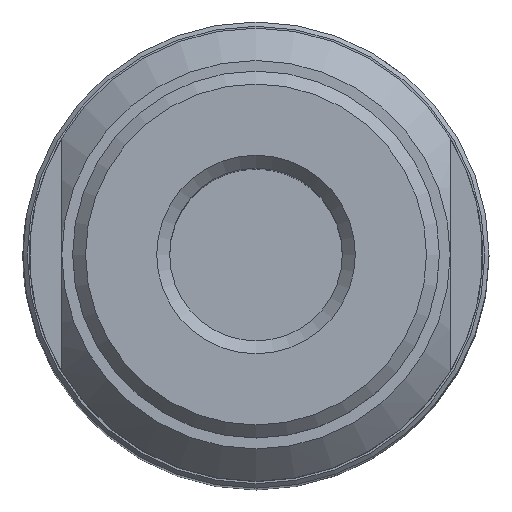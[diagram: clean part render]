
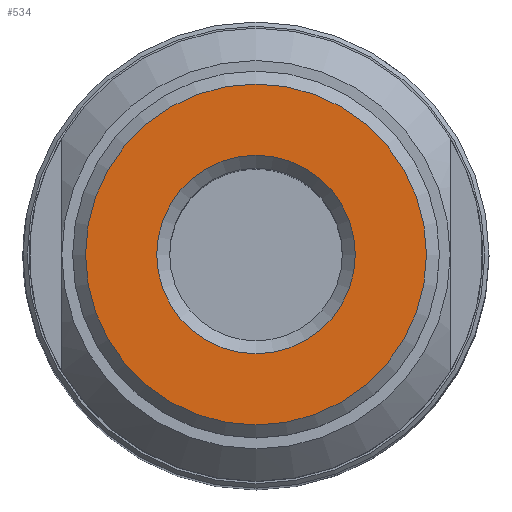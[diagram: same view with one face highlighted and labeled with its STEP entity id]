
A CAD part, top view. The second image highlights one B-rep face of the part: STEP entity #534.
In plain terms, the highlighted planar face has unit normal (0, 0, 1).
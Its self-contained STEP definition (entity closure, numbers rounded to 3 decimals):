
#78=FACE_BOUND('',#185,.T.);
#129=FACE_OUTER_BOUND('',#184,.T.);
#184=EDGE_LOOP('',(#430));
#185=EDGE_LOOP('',(#431));
#242=CIRCLE('',#603,3.95);
#243=CIRCLE('',#605,2.3);
#284=VERTEX_POINT('',#908);
#285=VERTEX_POINT('',#911);
#339=EDGE_CURVE('',#284,#284,#242,.T.);
#340=EDGE_CURVE('',#285,#285,#243,.T.);
#430=ORIENTED_EDGE('',*,*,#339,.T.);
#431=ORIENTED_EDGE('',*,*,#340,.F.);
#500=PLANE('',#604);
#534=ADVANCED_FACE('',(#129,#78),#500,.T.);
#603=AXIS2_PLACEMENT_3D('',#909,#738,#739);
#604=AXIS2_PLACEMENT_3D('',#910,#740,#741);
#605=AXIS2_PLACEMENT_3D('',#912,#742,#743);
#738=DIRECTION('center_axis',(0.,0.,1.));
#739=DIRECTION('ref_axis',(1.,0.,0.));
#740=DIRECTION('center_axis',(0.,0.,1.));
#741=DIRECTION('ref_axis',(1.,0.,0.));
#742=DIRECTION('center_axis',(0.,0.,1.));
#743=DIRECTION('ref_axis',(1.,0.,0.));
#908=CARTESIAN_POINT('',(0.,-3.95,19.7));
#909=CARTESIAN_POINT('Origin',(0.,0.,19.7));
#910=CARTESIAN_POINT('Origin',(0.,-2.3,19.7));
#911=CARTESIAN_POINT('',(0.,-2.3,19.7));
#912=CARTESIAN_POINT('Origin',(0.,0.,19.7));
